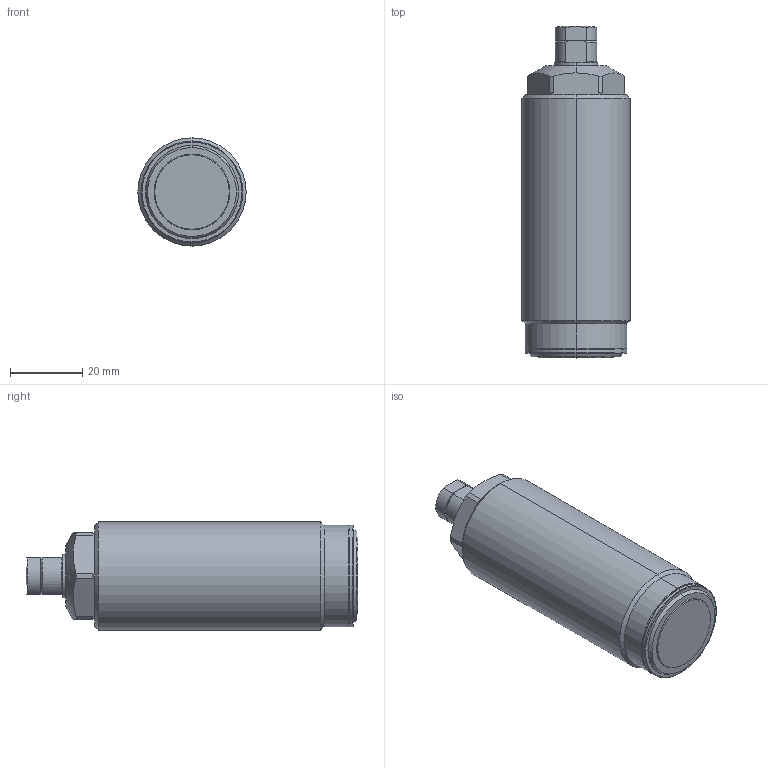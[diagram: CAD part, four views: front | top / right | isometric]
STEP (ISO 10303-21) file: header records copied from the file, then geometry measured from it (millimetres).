
FILE_DESCRIPTION(/* description */ (''),/* implementation_level */ '2;1');
FILE_NAME(/* name */ 'TSC03-PQ.stp',/* time_stamp */ '2024-01-06T14:05:22+08:00',/* author */ (''),/* organization */ (''),/* preprocessor_version */ 'ST-DEVELOPER v16.7',/* originating_system */ 'SIEMENS PLM Software NX 12.0',/* authorisation */ '');
FILE_SCHEMA (('AP203_CONFIGURATION_CONTROLLED_3D_DESIGN_OF_MECHANICAL_PARTS_AND_ASSEMBLIES_MIM_LF { 1 0 10303 403 2 1 2}'));
Length unit declared in the file: millimetre
Products named in the file (4): TSC03-PQ-03; TSC03-PQ-02; TSC03-PQ-01; CSY03-S16_step
Assembly tree (3 placements, depth 2):
  CSY03-S16_step
    TSC03-PQ-01
    TSC03-PQ-02
    TSC03-PQ-03
Bounding box: 30 x 92 x 30 mm (x, y, z)
Volume: 54991.8 mm3; surface area: 11134 mm2
Topology: 3 solids, 3 shells, 101 faces, 226 edges, 139 vertices
Faces by surface type: cylinder 32, cone 28, plane 25, torus 14, sphere 2
Entity records: 3297 total; most frequent: CARTESIAN_POINT 562, DIRECTION 526, ORIENTED_EDGE 452, EDGE_CURVE 226, AXIS2_PLACEMENT_3D 223, VERTEX_POINT 139, CIRCLE 118, EDGE_LOOP 109
